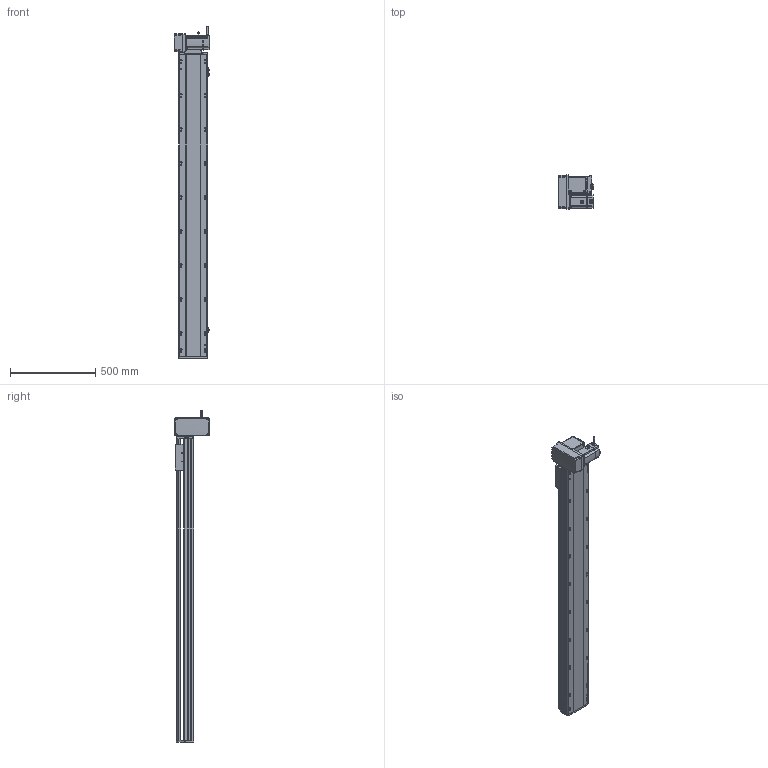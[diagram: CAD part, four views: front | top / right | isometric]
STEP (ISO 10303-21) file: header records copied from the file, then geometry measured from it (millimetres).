
FILE_DESCRIPTION (( 'STEP AP214' ), '1' );
FILE_NAME ('RTB17S-XX-1500-LM-M75-C4.STEP', '2025-12-12T00:41:27', ( '' ), ( '' ), 'SwSTEP 2.0', 'SolidWorks 2018', '' );
FILE_SCHEMA (( 'AUTOMOTIVE_DESIGN' ));
Length unit declared in the file: millimetre
Products named in the file (15): RTB17S-L-001-耜醱啣^RTB17S-XX-XX-LM-M75-C4; RTB17-R-011菁釱^RTB17S-XX-XX-LM-M75-C4; RTB17S-XX-1500-LM-M75-C4; RTH13-BL-012覜茼え俋离^RTB17S-賑釱_RTB17S-XX-XX-LM-M75-C4; RTB17S-L-004-賑釱^RTB17S-賑釱_RTB17S-XX-XX-LM-M75-C4; RTB17S-LM-々湍釱蚾饜-750W^RTB17S-XX-XX-LM-M75-C4; RTB22S-GY-018P^RTB17S-LM-々湍釱蚾饜-750W_RTB17S-XX-XX-LM-M75-C4; RTB22S-GY-017P^RTB17S-LM-々湍釱蚾饜-750W_RTB17S-XX-XX-LM-M75-C4; RTB17S-賑釱^RTB17S-XX-XX-LM-M75-C4; RTB22S-GY-005P^RTB17S-LM-々湍釱蚾饜-750W_RTB17S-XX-XX-LM-M75-C4; RTB17S-L-007奻裔^RTB17S-XX-XX-LM-M75-C4; 750W萇儂^RTB17S-XX-XX-LM-M75-C4; RTB22S-GY-008-M75--萇儂啣^RTB17S-LM-々湍釱蚾饜-750W_RTB17S-XX-XX-LM-M75-C4; EE672^RTB17S-XX-XX-LM-M75-C4; RTB17S-L-014-T20-P75--々湍釱^RTB17S-LM-々湍釱蚾饜-750W_RTB17S-XX-XX-LM-M75-C4
Assembly tree (17 placements, depth 3):
  RTB17S-XX-1500-LM-M75-C4
    RTB17-R-011菁釱^RTB17S-XX-XX-LM-M75-C4
    EE672^RTB17S-XX-XX-LM-M75-C4  x3
    RTB17S-L-001-耜醱啣^RTB17S-XX-XX-LM-M75-C4
    RTB17S-賑釱^RTB17S-XX-XX-LM-M75-C4
      RTB17S-L-004-賑釱^RTB17S-賑釱_RTB17S-XX-XX-LM-M75-C4
      RTH13-BL-012覜茼え俋离^RTB17S-賑釱_RTB17S-XX-XX-LM-M75-C4
    RTB17S-L-007奻裔^RTB17S-XX-XX-LM-M75-C4
    750W萇儂^RTB17S-XX-XX-LM-M75-C4
    RTB17S-LM-々湍釱蚾饜-750W^RTB17S-XX-XX-LM-M75-C4
      RTB17S-L-014-T20-P75--々湍釱^RTB17S-LM-々湍釱蚾饜-750W_RTB17S-XX-XX-LM-M75-C4
      RTB22S-GY-005P^RTB17S-LM-々湍釱蚾饜-750W_RTB17S-XX-XX-LM-M75-C4
      RTB22S-GY-017P^RTB17S-LM-々湍釱蚾饜-750W_RTB17S-XX-XX-LM-M75-C4  x2
      RTB22S-GY-008-M75--萇儂啣^RTB17S-LM-々湍釱蚾饜-750W_RTB17S-XX-XX-LM-M75-C4
      RTB22S-GY-018P^RTB17S-LM-々湍釱蚾饜-750W_RTB17S-XX-XX-LM-M75-C4
Bounding box: 210.4 x 200 x 1952.2 mm (x, y, z)
Volume: 15324097.4 mm3; surface area: 2685983 mm2
Topology: 17 solids, 17 shells, 2137 faces, 5944 edges, 3842 vertices
Faces by surface type: plane 976, cylinder 745, bspline 294, cone 110, sphere 8, torus 4
Entity records: 60406 total; most frequent: CARTESIAN_POINT 17808, ORIENTED_EDGE 8732, DIRECTION 8132, EDGE_CURVE 4366, AXIS2_PLACEMENT_3D 2862, VERTEX_POINT 2846, VECTOR 2408, LINE 2408
